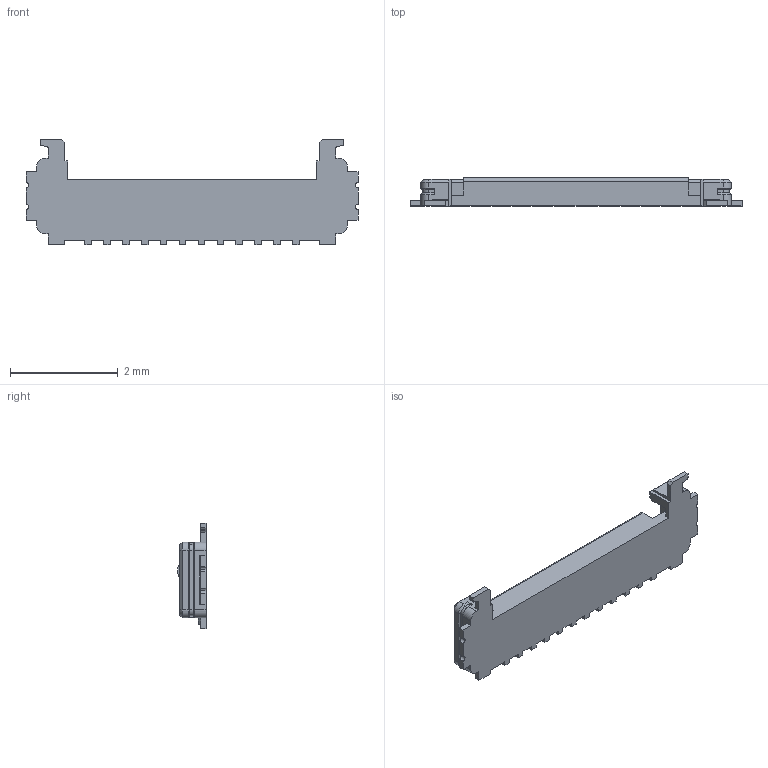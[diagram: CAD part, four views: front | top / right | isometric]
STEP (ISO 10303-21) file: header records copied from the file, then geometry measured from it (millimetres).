
FILE_DESCRIPTION (( 'STEP AP203' ), '1' );
FILE_NAME ('20854-012T-02C RECE ASS''Y STEP R8 io Products.STEP', '2025-06-10T08:29:00', ( '' ), ( '' ), 'SwSTEP 2.0', 'SolidWorks 2023', '' );
FILE_SCHEMA (( 'CONFIG_CONTROL_DESIGN' ));
Length unit declared in the file: millimetre
Products named in the file (1): 20854-012T-02C RECE ASS''Y STEP R8 io Products
Bounding box: 6.15 x 0.52 x 1.95 mm (x, y, z)
Volume: 2 mm3; surface area: 27.2 mm2
Topology: 1 solids, 1 shells, 227 faces, 615 edges, 390 vertices
Faces by surface type: plane 166, cylinder 45, cone 16
Entity records: 7106 total; most frequent: CARTESIAN_POINT 1287, ORIENTED_EDGE 1230, DIRECTION 1149, EDGE_CURVE 615, LINE 517, VECTOR 517, VERTEX_POINT 390, AXIS2_PLACEMENT_3D 316
